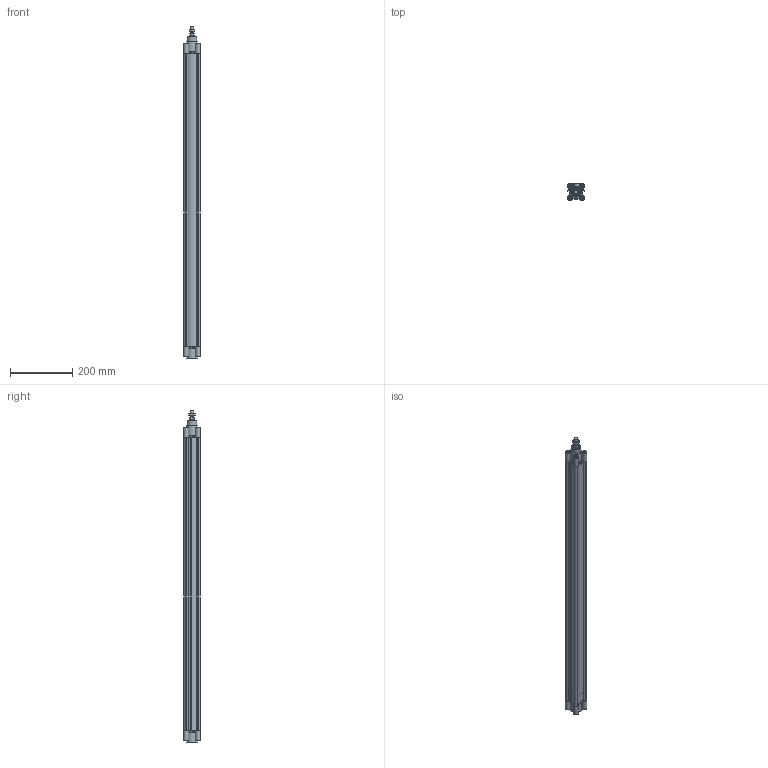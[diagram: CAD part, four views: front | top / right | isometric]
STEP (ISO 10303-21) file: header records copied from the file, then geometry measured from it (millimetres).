
FILE_DESCRIPTION((''),'2;1');
FILE_NAME('I:\Area Tecnica\Disegni\VARIE-3D\Componenti\ECOLIGHT\139#.##_0000_01\stp\139#_40_0900_01.iam.stp','2012-01-28T07:59:46',(''),(''),'Autodesk Inventor 2012','Autodesk Inventor 2012','');
FILE_SCHEMA(('AUTOMOTIVE_DESIGN { 1 0 10303 214 1 1 1 1 }'));
Length unit declared in the file: millimetre
Products named in the file (6): 139#_40_0900_01; CPL040_004-900; CPL040-001-01; CPL040-002-01; CPL_40_0900; 1320_40_18F
Assembly tree (5 placements, depth 2):
  139#_40_0900_01
    CPL040_004-900
    CPL040-001-01
    CPL040-002-01
    CPL_40_0900
    1320_40_18F
Bounding box: 54 x 54 x 1064 mm (x, y, z)
Volume: 991086.9 mm3; surface area: 591148.4 mm2
Topology: 5 solids, 5 shells, 316 faces, 788 edges, 522 vertices
Faces by surface type: plane 200, cylinder 91, cone 24, torus 1
Full cylindrical faces by diameter (mm): 5 x8, 5.5 x4, 8 x2, 10 x8, 10.5 x9, 10.8 x1, 11.6 x2, 12 x1, 15.5 x1, 16 x2, 30 x1, 35 x2, 40 x4
Entity records: 9416 total; most frequent: CARTESIAN_POINT 1761, DIRECTION 1538, ORIENTED_EDGE 1442, EDGE_CURVE 721, AXIS2_PLACEMENT_3D 544, VERTEX_POINT 507, VECTOR 450, LINE 450
